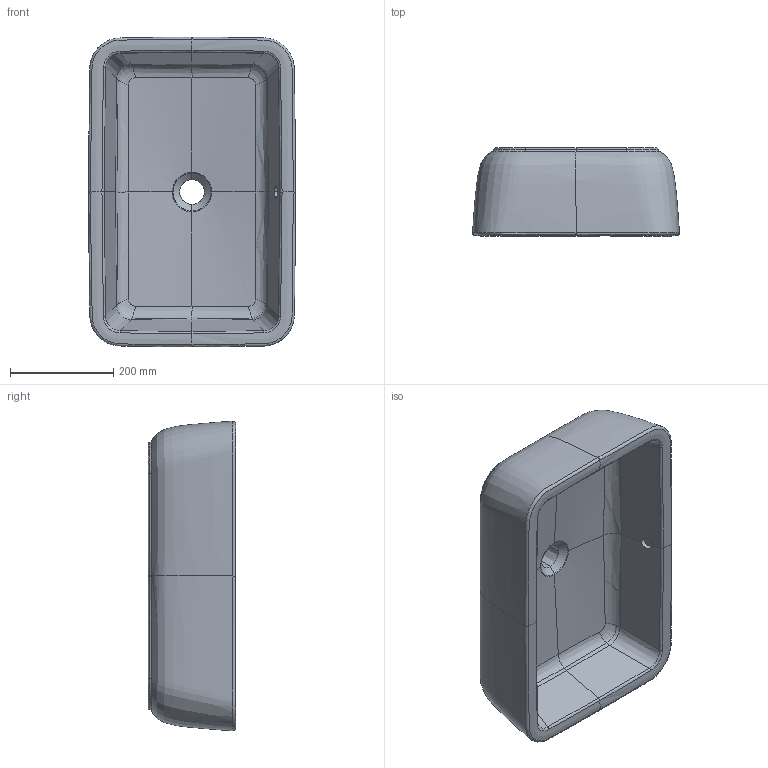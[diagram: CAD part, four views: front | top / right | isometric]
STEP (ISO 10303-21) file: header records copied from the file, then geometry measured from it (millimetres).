
FILE_DESCRIPTION(/* description */ (''),/* implementation_level */ '2;1');
FILE_NAME(/* name */ '412760_Matrix_Eckig_AWT.stp',/* time_stamp */ '2019-02-15T09:32:54+01:00',/* author */ (''),/* organization */ (''),/* preprocessor_version */ 'ST-DEVELOPER v16',/* originating_system */ 'SIEMENS PLM Software NX 10.0',/* authorisation */ '');
FILE_SCHEMA (('AUTOMOTIVE_DESIGN { 1 0 10303 214 3 1 1 1 }'));
Length unit declared in the file: millimetre
Products named in the file (1): math27F85B32ydtu
Bounding box: 400.32 x 170 x 598.82 mm (x, y, z)
Volume: 18205415.1 mm3; surface area: 842693.1 mm2
Topology: 1 solids, 1 shells, 108 faces, 301 edges, 192 vertices
Faces by surface type: bspline 93, plane 9, extrusion 6
Entity records: 20242 total; most frequent: CARTESIAN_POINT 18289, ORIENTED_EDGE 598, EDGE_CURVE 299, B_SPLINE_CURVE_WITH_KNOTS 236, VERTEX_POINT 192, EDGE_LOOP 109, ADVANCED_FACE 108, FACE_OUTER_BOUND 107
